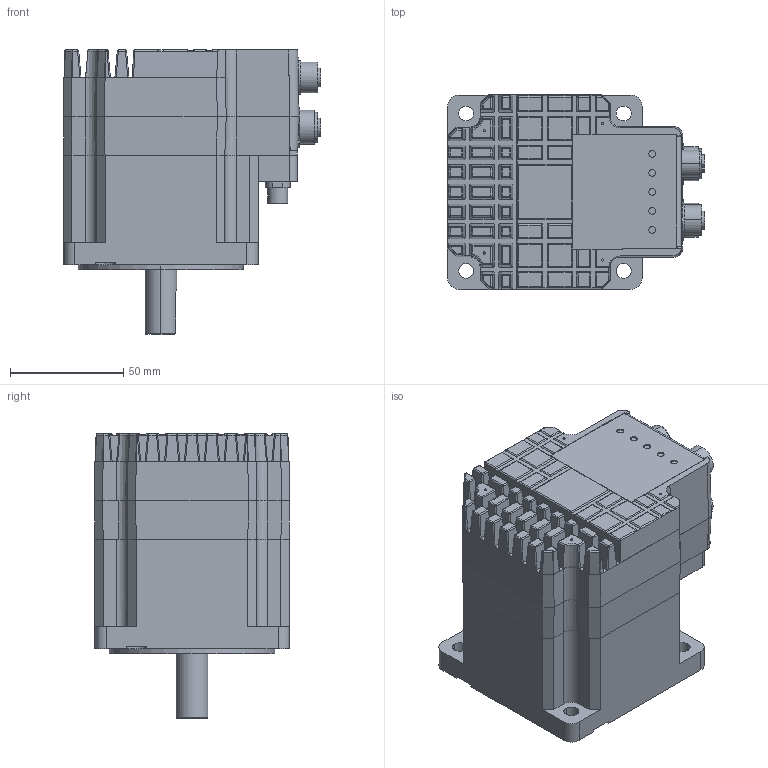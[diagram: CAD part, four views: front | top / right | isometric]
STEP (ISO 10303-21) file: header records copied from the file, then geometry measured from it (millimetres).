
FILE_DESCRIPTION (( 'STEP AP214' ), '1' );
FILE_NAME ('MIS340C49 R1_0.STEP', '2020-09-14T10:49:45', ( '' ), ( '' ), 'SwSTEP 2.0', 'SolidWorks 2018', '' );
FILE_SCHEMA (( 'AUTOMOTIVE_DESIGN' ));
Length unit declared in the file: millimetre
Products named in the file (2): MIS340C49 R1_0
Bounding box: 113.87 x 86.41 x 125.5 mm (x, y, z)
Volume: 667625.5 mm3; surface area: 91683.9 mm2
Topology: 2 solids, 7 shells, 1318 faces, 3249 edges, 1995 vertices
Faces by surface type: cylinder 578, plane 541, bspline 155, cone 38, torus 4, sphere 2
Entity records: 60438 total; most frequent: CARTESIAN_POINT 16300, ORIENTED_EDGE 6474, DIRECTION 5800, EDGE_CURVE 3237, AXIS2_PLACEMENT_3D 2107, VERTEX_POINT 1993, VECTOR 1586, LINE 1586
